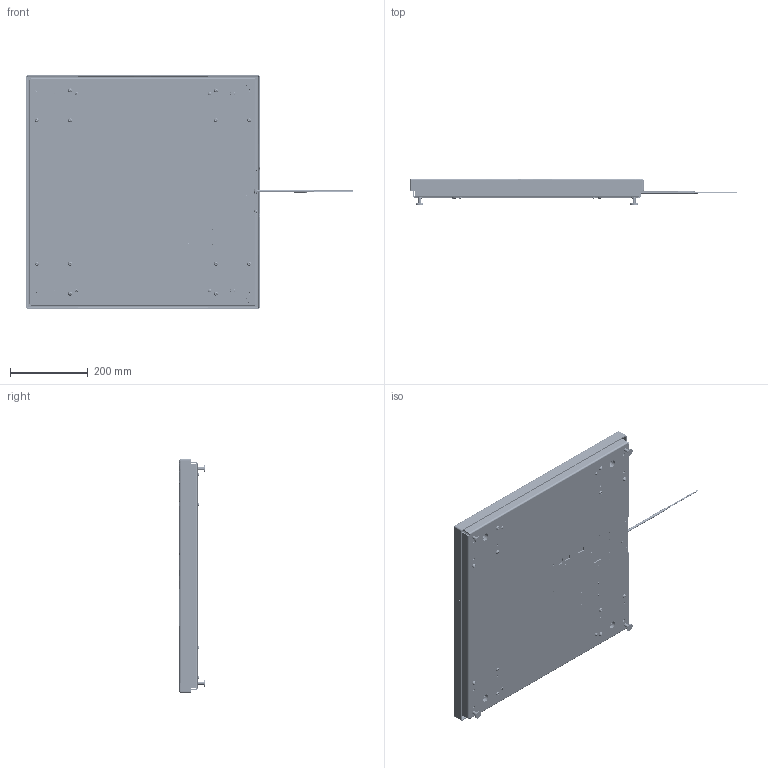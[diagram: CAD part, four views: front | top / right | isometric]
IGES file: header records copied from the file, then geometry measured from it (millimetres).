
Start section: SolidWorks IGES file using analytic representation for surfaces
Global section: file name: C:\0_Work\SolidWorks\~0_E-Scales\24x24\HI2424SBU-660.IGS; native system: SolidWorks 2017; preprocessor: SolidWorks 2017; author: vach01; date: 190813.153441; units: millimetre
Bounding box: 852.36 x 66.39 x 600 mm (x, y, z)
Surface area: 1949009.9 mm2 (no closed solid volume)
Topology: 0 solids, 0 shells, 9584 faces, 85570 edges, 85476 vertices
Faces by surface type: bspline 7124, revolution 2460
